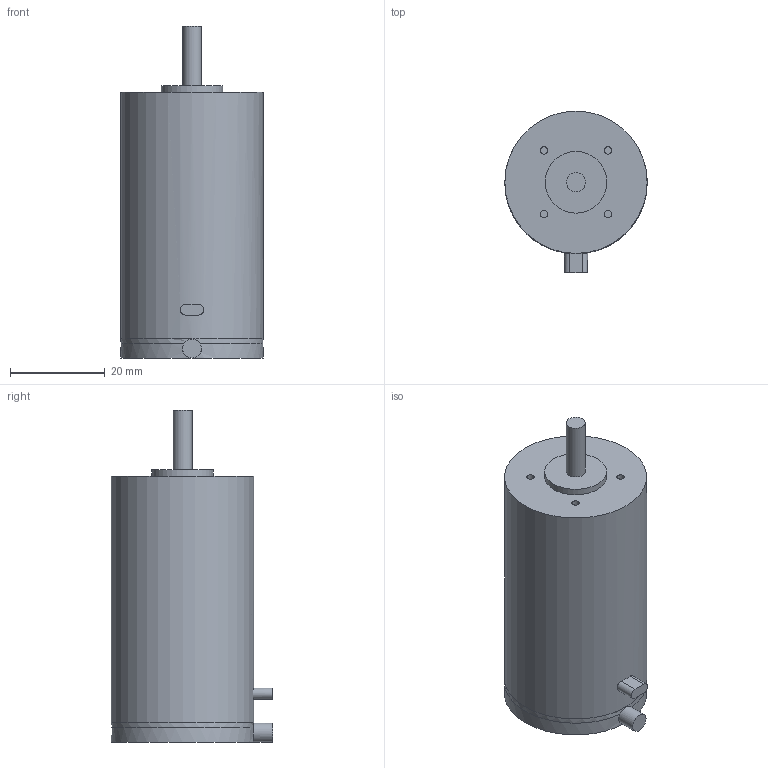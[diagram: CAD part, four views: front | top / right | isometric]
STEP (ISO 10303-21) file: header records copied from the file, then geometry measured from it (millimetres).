
FILE_DESCRIPTION((''),'2;1');
FILE_NAME('G:\Disegni\Progetti\D8500÷D8599\D8514\Motori\C - Motori Step\3056 stp\3056KxxxB.stp','2013-06-14T10:48:04',('mangiullo'),(''),'Autodesk Inventor 2012','Autodesk Inventor 2012','');
FILE_SCHEMA(('AUTOMOTIVE_DESIGN { 1 0 10303 214 1 1 1 1 }'));
Length unit declared in the file: millimetre
Products named in the file (1): 3056KxxxB
Bounding box: 30 x 34 x 70 mm (x, y, z)
Volume: 39981.5 mm3; surface area: 7107.4 mm2
Topology: 1 solids, 1 shells, 24 faces, 47 edges, 31 vertices
Faces by surface type: cylinder 12, plane 12
Full cylindrical faces by diameter (mm): 1.567 x4, 4 x2, 13 x1, 30 x3
Entity records: 639 total; most frequent: CARTESIAN_POINT 158, DIRECTION 98, ORIENTED_EDGE 64, AXIS2_PLACEMENT_3D 46, EDGE_LOOP 40, EDGE_CURVE 32, VERTEX_POINT 26, FACE_OUTER_BOUND 24
